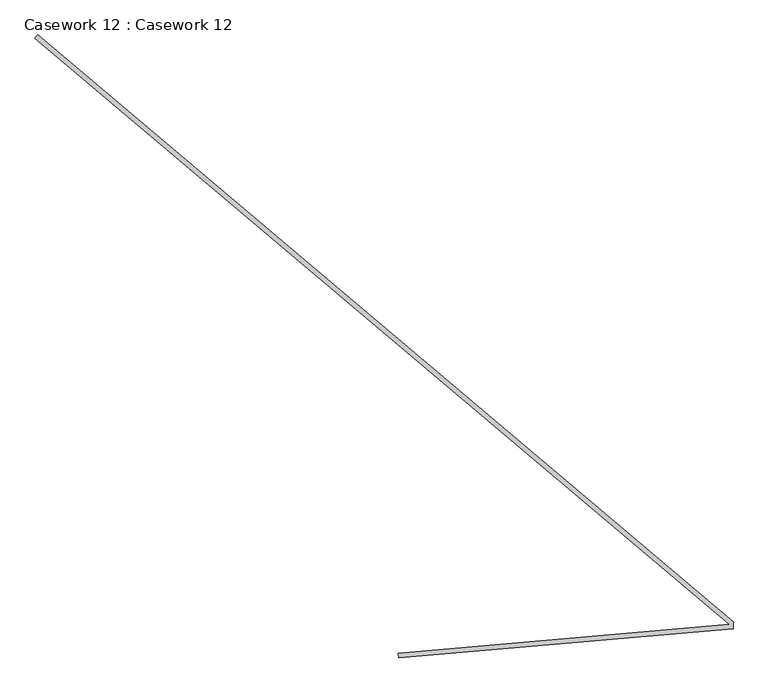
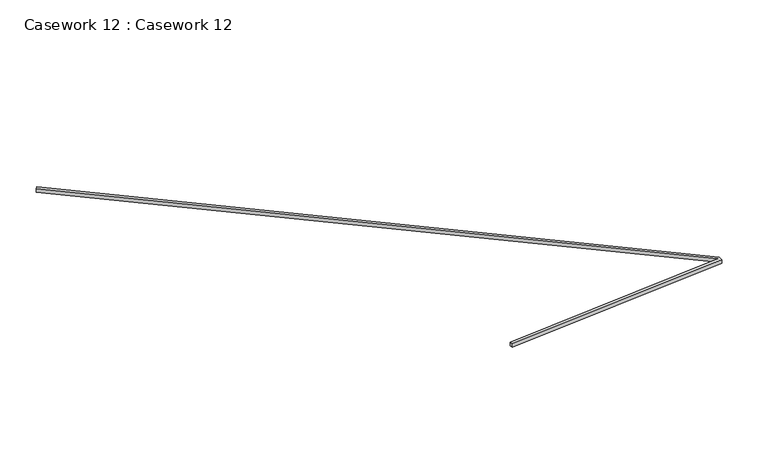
"""IFC4 building model written with IfcOpenShell, lengths in millimetres: furniture geometry, Casework 12 : Casework 12."""

from ifc_helpers import new_model, si_unit, frame, origin, place, context, project, spatial, polyline, outline, extrude, source, transform, mapped, element, save


def casework_12_casework_12_61cf5a54(model_context):
    return source(origin(), model_context, "Body", "SweptSolid", [
        extrude(outline(polyline([(1339.8907057, 3512.1330087), (1336.1255776, 3555.1686196), (4371.63063, 3820.7408998), (-1996.890133, 9201.2995109), (-1971.6329455, 9231.194348), (4407.9682518, 3841.274234), (4407.9682518, 3780.5550128), (1339.8907057, 3512.1330087)])), frame((0.0, 0.0, 3200.0), z_axis=(0.0, 0.0, 1.0), x_axis=(1.0, 0.0, 0.0)), (0.0, 0.0, 1.0), 50.0),
    ])


if __name__ == "__main__":
    model = new_model("IFC4")
    model_context = context("Model", 3, world=origin())
    ifc_project = project(units=[si_unit("LENGTHUNIT", "METRE", prefix="MILLI")], contexts=[model_context])
    site = spatial("IfcSite", under=ifc_project)
    building = spatial("IfcBuilding", under=site)
    placement = place(None, origin())
    casework_12_casework_12_shape = casework_12_casework_12_61cf5a54(model_context)
    element("IfcFurniture", 1, ObjectType="Casework 12 : Casework 12", at=placement, inside=building, context=model_context, shape_type="MappedRepresentation", body=[
        mapped(casework_12_casework_12_shape, transform((0.0, 0.0, 0.0), x_axis=(1.0, 0.0, 0.0), y_axis=(0.0, 1.0, 0.0), z_axis=(0.0, 0.0, 1.0))),
    ])
    save(model, "model.ifc")
